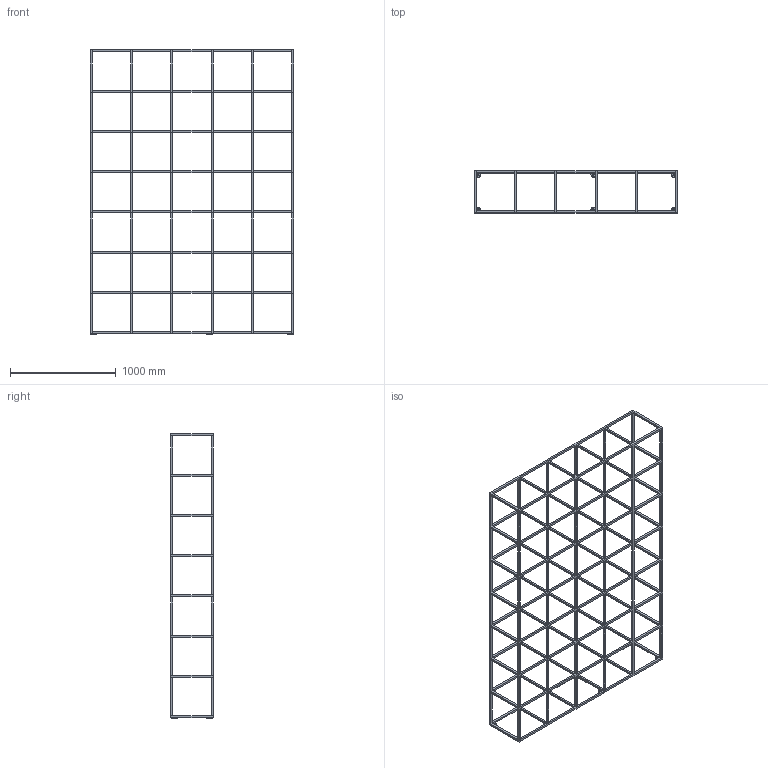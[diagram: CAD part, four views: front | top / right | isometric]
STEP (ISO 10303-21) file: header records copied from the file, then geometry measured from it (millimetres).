
FILE_DESCRIPTION(/* description */ (''),/* implementation_level */ '2;1');
FILE_NAME(/* name */ 'KIDC73~1',/* time_stamp */ '2021-07-29T19:56:13+09:00',/* author */ (''),/* organization */ (''),/* preprocessor_version */ 'ST-DEVELOPER v16.5',/* originating_system */ '',/* authorisation */ '');
FILE_SCHEMA (('AUTOMOTIVE_DESIGN'));
Length unit declared in the file: millimetre
Products named in the file (1): Document
Bounding box: 1924 x 400 x 2689.2 mm (x, y, z)
Volume: 28432025 mm3; surface area: 5935636.4 mm2
Topology: 13 solids, 13 shells, 998 faces, 2176 edges, 982 vertices
Faces by surface type: plane 944, bspline 54
Entity records: 23700 total; most frequent: CARTESIAN_POINT 8016, ORIENTED_EDGE 4352, EDGE_CURVE 2176, B_SPLINE_CURVE_WITH_KNOTS 2014, EDGE_LOOP 1082, ADVANCED_FACE 998, FACE_OUTER_BOUND 998, VERTEX_POINT 982
